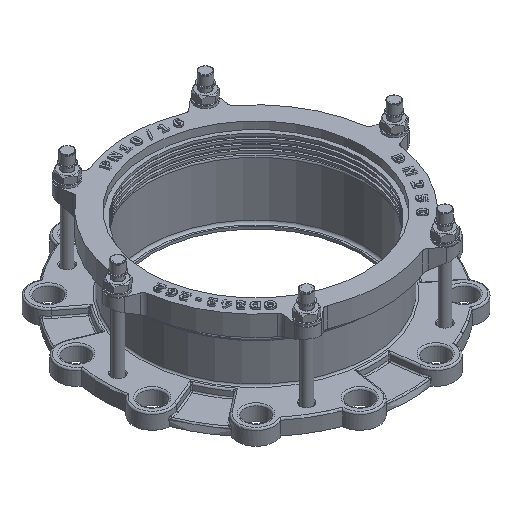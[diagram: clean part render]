
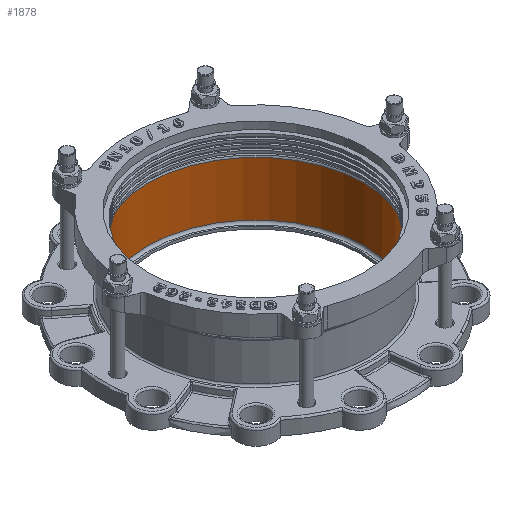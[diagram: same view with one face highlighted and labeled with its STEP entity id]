
A CAD part, isometric view. The second image highlights one B-rep face of the part: STEP entity #1878.
In plain terms, the highlighted cylindrical face has radius 131 mm (diameter 262 mm), a full revolution.
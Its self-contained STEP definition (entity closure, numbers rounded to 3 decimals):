
#1878=ADVANCED_FACE('',(#12816,#12818),#12820,.F.);
#12816=FACE_OUTER_BOUND('',#12817,.T.);
#12817=EDGE_LOOP('',(#18962));
#12818=FACE_OUTER_BOUND('',#12819,.T.);
#12819=EDGE_LOOP('',(#18963));
#12820=CYLINDRICAL_SURFACE('',#12821,131.);
#12821=AXIS2_PLACEMENT_3D('',#12822,#12823,#12824);
#12822=CARTESIAN_POINT('',(0.,0.,3.));
#12823=DIRECTION('',(0.,0.,1.));
#12824=DIRECTION('',(-1.,0.,0.));
#18962=ORIENTED_EDGE('',*,*,#23965,.F.);
#18963=ORIENTED_EDGE('',*,*,#23967,.T.);
#23965=EDGE_CURVE('',#27096,#27096,#27097,.T.);
#23967=EDGE_CURVE('',#27100,#27100,#27101,.F.);
#27096=VERTEX_POINT('',#38371);
#27097=CIRCLE('',#38372,131.);
#27100=VERTEX_POINT('',#38381);
#27101=CIRCLE('',#38382,131.);
#38371=CARTESIAN_POINT('',(0.,131.,71.5));
#38372=AXIS2_PLACEMENT_3D('',#38373,#38374,#38375);
#38373=CARTESIAN_POINT('',(0.,0.,71.5));
#38374=DIRECTION('',(0.,0.,-1.));
#38375=DIRECTION('',(0.,1.,0.));
#38381=CARTESIAN_POINT('',(0.,131.,6.));
#38382=AXIS2_PLACEMENT_3D('',#38383,#38384,#38385);
#38383=CARTESIAN_POINT('',(0.,0.,6.));
#38384=DIRECTION('',(0.,0.,1.));
#38385=DIRECTION('',(0.,1.,0.));
